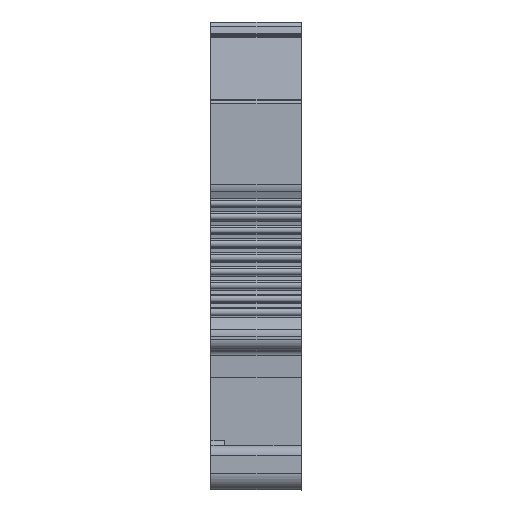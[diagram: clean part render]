
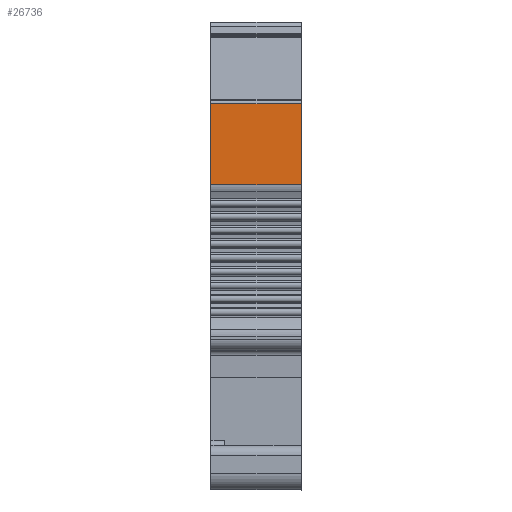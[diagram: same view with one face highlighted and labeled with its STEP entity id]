
A CAD part, front view. The second image highlights one B-rep face of the part: STEP entity #26736.
In plain terms, the highlighted planar face has unit normal (0, -1, 0).
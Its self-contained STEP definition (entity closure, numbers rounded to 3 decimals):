
#1321=DIRECTION('',(0.,0.,1.));
#1322=VECTOR('',#1321,7.312);
#1323=CARTESIAN_POINT('',(-12.95,-31.49,
27.533));
#1324=LINE('',#1323,#1322);
#1928=DIRECTION('',(0.,0.,-1.));
#1929=VECTOR('',#1928,7.312);
#1930=CARTESIAN_POINT('',(-21.1,-31.49,
34.846));
#1931=LINE('',#1930,#1929);
#7282=DIRECTION('',(-1.,0.,0.));
#7283=VECTOR('',#7282,8.15);
#7284=CARTESIAN_POINT('',(-12.95,-31.49,
34.846));
#7285=LINE('',#7284,#7283);
#7290=DIRECTION('',(1.,0.,0.));
#7291=VECTOR('',#7290,8.15);
#7292=CARTESIAN_POINT('',(-21.1,-31.49,
27.533));
#7293=LINE('',#7292,#7291);
#14883=CARTESIAN_POINT('',(-12.95,-31.49,
27.533));
#14884=VERTEX_POINT('',#14883);
#14885=CARTESIAN_POINT('',(-12.95,-31.49,
34.846));
#14886=VERTEX_POINT('',#14885);
#15179=CARTESIAN_POINT('',(-21.1,-31.49,
34.846));
#15180=VERTEX_POINT('',#15179);
#15181=CARTESIAN_POINT('',(-21.1,-31.49,
27.533));
#15182=VERTEX_POINT('',#15181);
#26724=CARTESIAN_POINT('',(-12.742,-31.49,
35.033));
#26725=DIRECTION('',(0.,1.,0.));
#26726=DIRECTION('',(0.,0.,-1.));
#26727=AXIS2_PLACEMENT_3D('',#26724,#26725,#26726);
#26728=PLANE('',#26727);
#26729=ORIENTED_EDGE('',*,*,#26718,.F.);
#26730=ORIENTED_EDGE('',*,*,#19503,.F.);
#26732=ORIENTED_EDGE('',*,*,#26731,.F.);
#26733=ORIENTED_EDGE('',*,*,#19874,.F.);
#26734=EDGE_LOOP('',(#26729,#26730,#26732,#26733));
#26735=FACE_OUTER_BOUND('',#26734,.F.);
#26736=ADVANCED_FACE('',(#26735),#26728,.F.);
#19503=EDGE_CURVE('',#14884,#14886,#1324,.T.);
#19874=EDGE_CURVE('',#15180,#15182,#1931,.T.);
#26718=EDGE_CURVE('',#14886,#15180,#7285,.T.);
#26731=EDGE_CURVE('',#15182,#14884,#7293,.T.);
